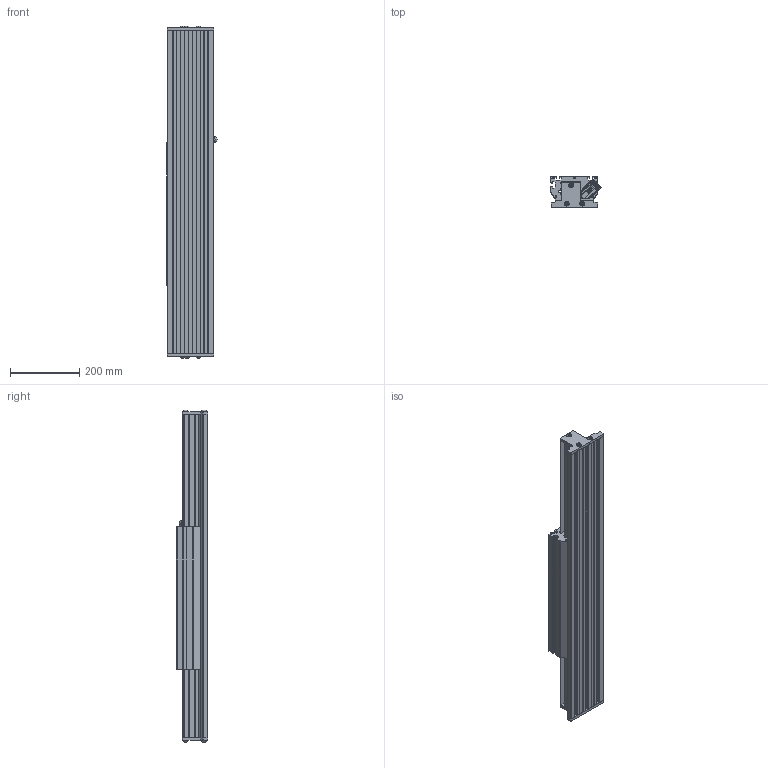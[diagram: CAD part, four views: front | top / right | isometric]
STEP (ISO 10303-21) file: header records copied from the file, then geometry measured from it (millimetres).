
FILE_DESCRIPTION (( 'STEP AP214' ), '1' );
FILE_NAME ('SINADRIVES Linear Motor Stage MLL20630XS-XX-1-0-ST-00-00948.STEP', '2015-07-07T07:46:22', ( 'Tecnico' ), ( '' ), 'SwSTEP 2.0', 'SolidWorks 2009', '' );
FILE_SCHEMA (( 'AUTOMOTIVE_DESIGN' ));
Length unit declared in the file: millimetre
Products named in the file (7): SINADRIVES CARRIAGE MLL20630XS-1; CARRIAGE MLL20630; Connector power+signal Y-tec 45; SINADRIVES PROFILE MLL2XXXX-0932; SINADRIVES ENDBLOCK MLL2; SINADRIVES ENDBLOCK MLL2-2; SINADRIVES Linear Motor Stage MLL20630XS-XX-1-0-ST-00-00948
Assembly tree (6 placements, depth 3):
  SINADRIVES Linear Motor Stage MLL20630XS-XX-1-0-ST-00-00948
    SINADRIVES CARRIAGE MLL20630XS-1
      CARRIAGE MLL20630
      Connector power+signal Y-tec 45
    SINADRIVES ENDBLOCK MLL2
    SINADRIVES PROFILE MLL2XXXX-0932
    SINADRIVES ENDBLOCK MLL2-2
Bounding box: 144.43 x 91 x 956.8 mm (x, y, z)
Volume: 6036838.8 mm3; surface area: 1026415 mm2
Topology: 2 solids, 42 shells, 950 faces, 2640 edges, 1730 vertices
Faces by surface type: plane 445, cylinder 302, bspline 79, cone 70, torus 42, sphere 12
Entity records: 40587 total; most frequent: CARTESIAN_POINT 8656, ORIENTED_EDGE 5024, DIRECTION 4947, EDGE_CURVE 2622, AXIS2_PLACEMENT_3D 1781, VERTEX_POINT 1730, LINE 1385, VECTOR 1385
